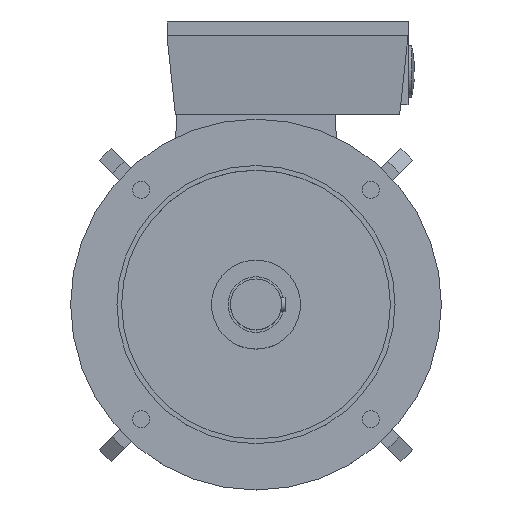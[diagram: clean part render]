
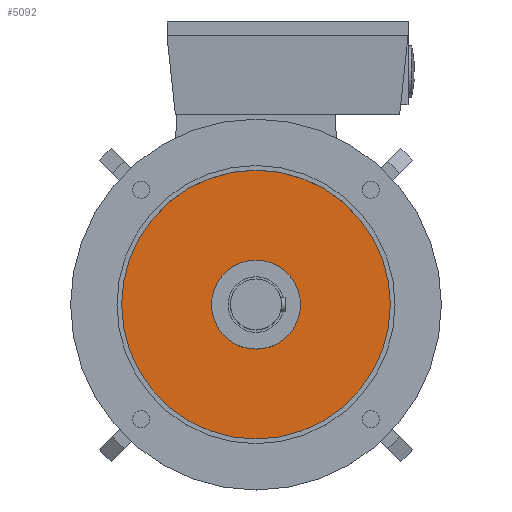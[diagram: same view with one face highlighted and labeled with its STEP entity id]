
A CAD part, top view. The second image highlights one B-rep face of the part: STEP entity #5092.
In plain terms, the highlighted planar face has unit normal (0, 0, 1).
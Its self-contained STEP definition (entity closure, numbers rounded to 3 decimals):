
#129=CARTESIAN_POINT('',(0.,0.,23.));
#130=DIRECTION('',(0.,0.,1.));
#131=DIRECTION('',(1.,0.,0.));
#132=AXIS2_PLACEMENT_3D('',#129,#130,#131);
#134=CARTESIAN_POINT('',(0.,0.,23.));
#135=DIRECTION('',(0.,0.,1.));
#136=DIRECTION('',(-1.,0.,0.));
#137=AXIS2_PLACEMENT_3D('',#134,#135,#136);
#149=CARTESIAN_POINT('',(0.,0.,23.));
#150=DIRECTION('',(0.,0.,1.));
#151=DIRECTION('',(-1.,0.,0.));
#152=AXIS2_PLACEMENT_3D('',#149,#150,#151);
#154=CARTESIAN_POINT('',(0.,0.,23.));
#155=DIRECTION('',(0.,0.,1.));
#156=DIRECTION('',(1.,0.,0.));
#157=AXIS2_PLACEMENT_3D('',#154,#155,#156);
#4218=CARTESIAN_POINT('',(48.,0.,23.));
#4219=VERTEX_POINT('',#4218);
#4220=CARTESIAN_POINT('',(-48.,0.,23.));
#4221=VERTEX_POINT('',#4220);
#4226=CARTESIAN_POINT('',(-145.,0.,23.));
#4227=CARTESIAN_POINT('',(145.,0.,23.));
#4228=VERTEX_POINT('',#4226);
#4229=VERTEX_POINT('',#4227);
#5075=CARTESIAN_POINT('',(0.,0.,23.));
#5076=DIRECTION('',(0.,0.,1.));
#5077=DIRECTION('',(1.,0.,0.));
#5078=AXIS2_PLACEMENT_3D('',#5075,#5076,#5077);
#5079=PLANE('',#5078);
#5081=ORIENTED_EDGE('',*,*,#5080,.F.);
#5083=ORIENTED_EDGE('',*,*,#5082,.F.);
#5084=EDGE_LOOP('',(#5081,#5083));
#5085=FACE_OUTER_BOUND('',#5084,.F.);
#5087=ORIENTED_EDGE('',*,*,#5086,.T.);
#5089=ORIENTED_EDGE('',*,*,#5088,.T.);
#5090=EDGE_LOOP('',(#5087,#5089));
#5091=FACE_BOUND('',#5090,.F.);
#5092=ADVANCED_FACE('',(#5085,#5091),#5079,.T.);
#133=CIRCLE('',#132,48.);
#138=CIRCLE('',#137,48.);
#153=CIRCLE('',#152,145.);
#158=CIRCLE('',#157,145.);
#5080=EDGE_CURVE('',#4228,#4229,#153,.T.);
#5082=EDGE_CURVE('',#4229,#4228,#158,.T.);
#5086=EDGE_CURVE('',#4219,#4221,#133,.T.);
#5088=EDGE_CURVE('',#4221,#4219,#138,.T.);
